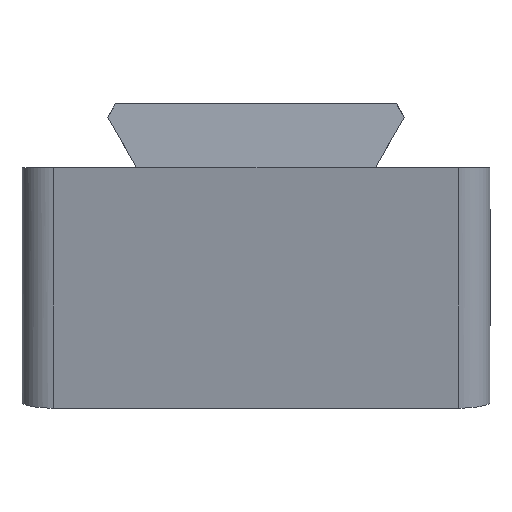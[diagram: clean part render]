
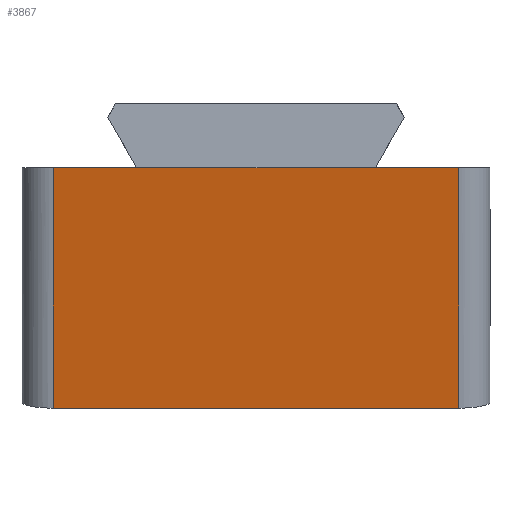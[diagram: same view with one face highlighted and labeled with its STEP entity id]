
A CAD part, left-side view. The second image highlights one B-rep face of the part: STEP entity #3867.
In plain terms, the highlighted planar face has unit normal (-0.982, 0, -0.191).
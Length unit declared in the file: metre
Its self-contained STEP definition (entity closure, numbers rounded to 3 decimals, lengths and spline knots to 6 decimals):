
#498=ORIENTED_EDGE('',*,*,#1458,.T.);
#499=ORIENTED_EDGE('',*,*,#1611,.T.);
#500=ORIENTED_EDGE('',*,*,#1388,.F.);
#501=ORIENTED_EDGE('',*,*,#1612,.T.);
#502=ORIENTED_EDGE('',*,*,#1470,.T.);
#503=ORIENTED_EDGE('',*,*,#1606,.T.);
#1388=EDGE_CURVE('',#1963,#1964,#2346,.T.);
#1458=EDGE_CURVE('',#2024,#2031,#2391,.T.);
#1470=EDGE_CURVE('',#2040,#2016,#2397,.T.);
#1606=EDGE_CURVE('',#2016,#2024,#2489,.T.);
#1611=EDGE_CURVE('',#2031,#1964,#2490,.T.);
#1612=EDGE_CURVE('',#1963,#2040,#2491,.F.);
#1963=VERTEX_POINT('',#5324);
#1964=VERTEX_POINT('',#5326);
#2016=VERTEX_POINT('',#5437);
#2024=VERTEX_POINT('',#5455);
#2031=VERTEX_POINT('',#5472);
#2040=VERTEX_POINT('',#5494);
#2346=LINE('',#5325,#2773);
#2391=LINE('',#5473,#2818);
#2397=LINE('',#5493,#2824);
#2489=LINE('',#5816,#2916);
#2490=LINE('',#5828,#2917);
#2491=LINE('',#5829,#2918);
#2773=VECTOR('',#4358,1.);
#2818=VECTOR('',#4473,1.);
#2824=VECTOR('',#4491,1.);
#2916=VECTOR('',#4631,1.);
#2917=VECTOR('',#4650,1.);
#2918=VECTOR('',#4651,1.);
#3241=EDGE_LOOP('',(#498,#499,#500,#501,#502,#503));
#3492=FACE_BOUND('',#3241,.T.);
#3716=PLANE('',#4151);
#3867=ADVANCED_FACE('',(#3492),#3716,.F.);
#4151=AXIS2_PLACEMENT_3D('',#5827,#4648,#4649);
#4358=DIRECTION('',(0.,1.,0.));
#4473=DIRECTION('',(0.,1.,0.));
#4491=DIRECTION('',(0.,1.,0.));
#4631=DIRECTION('',(0.,1.,0.));
#4648=DIRECTION('',(0.982,0.,0.191));
#4649=DIRECTION('',(0.191,0.,-0.982));
#4650=DIRECTION('',(0.191,0.,-0.982));
#4651=DIRECTION('',(0.191,0.,-0.982));
#5324=CARTESIAN_POINT('',(0.002994,-0.013,-0.015403));
#5325=CARTESIAN_POINT('',(0.002994,-0.015,-0.015403));
#5326=CARTESIAN_POINT('',(0.002994,0.013,-0.015403));
#5437=CARTESIAN_POINT('',(0.,-0.007695,0.));
#5455=CARTESIAN_POINT('',(0.,0.007695,0.));
#5472=CARTESIAN_POINT('',(0.,0.013,0.));
#5473=CARTESIAN_POINT('',(0.,-0.015,0.));
#5493=CARTESIAN_POINT('',(0.,-0.015,0.));
#5494=CARTESIAN_POINT('',(0.,-0.013,0.));
#5816=CARTESIAN_POINT('',(0.,0.,0.));
#5827=CARTESIAN_POINT('',(0.001497,-0.015,-0.007701));
#5828=CARTESIAN_POINT('',(0.001497,0.013,-0.007701));
#5829=CARTESIAN_POINT('',(0.,-0.013,0.));
